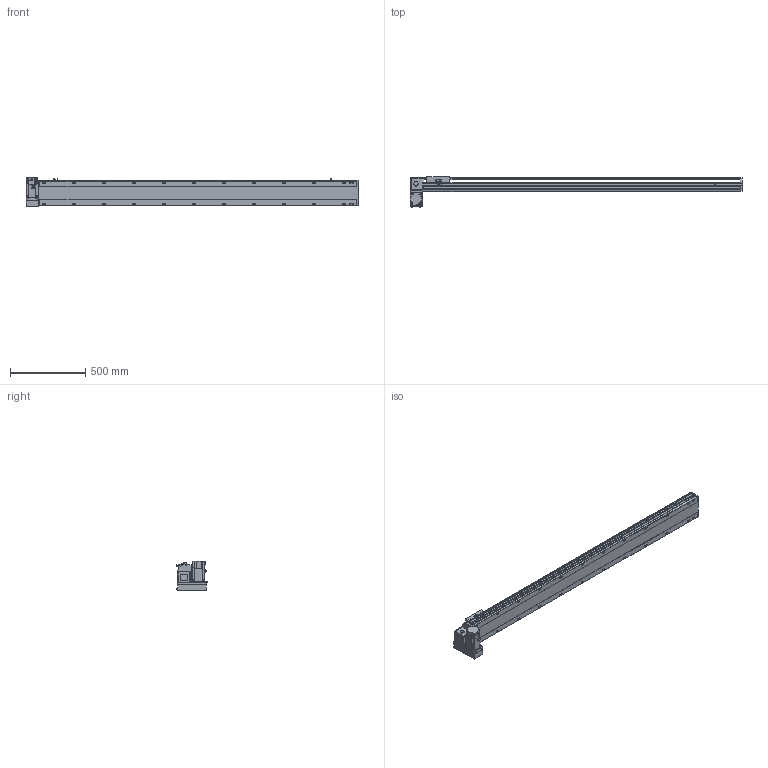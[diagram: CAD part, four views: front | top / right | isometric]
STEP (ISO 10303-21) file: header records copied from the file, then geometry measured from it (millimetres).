
FILE_DESCRIPTION( ( 'STEP AP214' ), '1' );
FILE_NAME( 'x:/temp/worker_4/temp/exporttempdir_2248_350_3SxGk/format_0/PBS170-P40-S1850-LD-T75-C1-N(0).stp', '2022-06-07T07:54:38', ( 'License CC BY-ND 4.0' ), ( 'CADENAS' ), ' ', 'PARTsolutions', ' ' );
FILE_SCHEMA( ( 'AUTOMOTIVE_DESIGN { 1 0 10303 214 1 1 1 1 }' ) );
Length unit declared in the file: millimetre
Products named in the file (7): PBS170-P40-S1850-LD-T75-C1-N(0); _PBS170-S1850()_body; _PBS170T-LD_motors; _T75-p1; _PBS170_sliser; _PBS170_plant; _PBS170_sensor
Assembly tree (8 placements, depth 2):
  PBS170-P40-S1850-LD-T75-C1-N(0)
    _PBS170-S1850()_body
    _PBS170T-LD_motors
    _T75-p1
    _PBS170_sliser
    _PBS170_plant
    _PBS170_sensor  x3
Bounding box: 2213 x 201 x 197.3 mm (x, y, z)
Volume: 17044187.3 mm3; surface area: 2171960.1 mm2
Topology: 8 solids, 8 shells, 1146 faces, 3035 edges, 1978 vertices
Faces by surface type: plane 711, cylinder 371, cone 54, sphere 8, torus 2
Full cylindrical faces by diameter (mm): 3.242 x4, 4 x2, 4.4 x4, 4.5 x6, 4.917 x4, 6 x9, 6.647 x32, 7 x2, 7.5 x4, 8 x8, 8.5 x24, 10 x4, 10.5 x24, 11 x2, 30 x2, 40 x1, 70 x1
Entity records: 42308 total; most frequent: CARTESIAN_POINT 6893, DIRECTION 5580, ORIENTED_EDGE 5268, EDGE_CURVE 2634, AXIS2_PLACEMENT_3D 1957, VERTEX_POINT 1826, LINE 1666, VECTOR 1666
